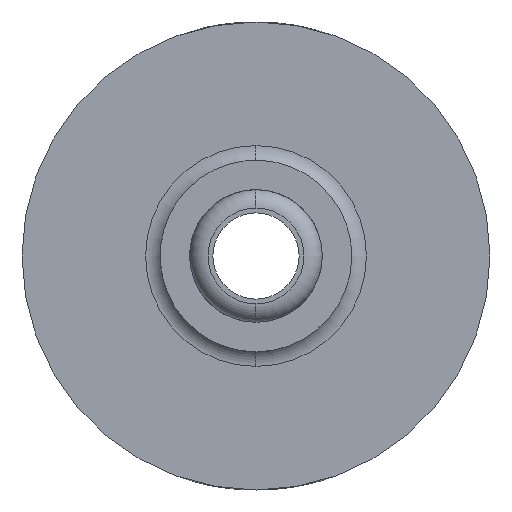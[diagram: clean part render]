
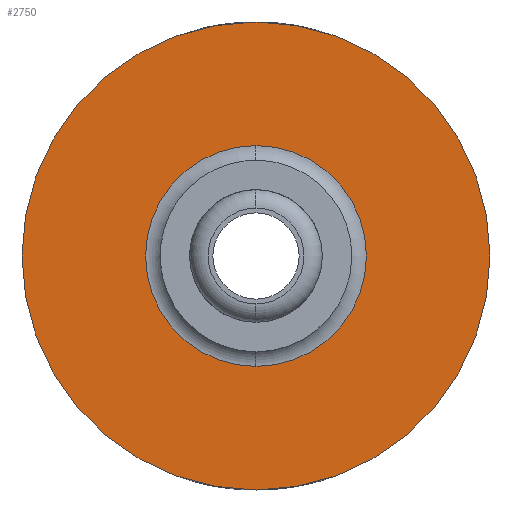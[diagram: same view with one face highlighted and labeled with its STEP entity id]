
A CAD part, left-side view. The second image highlights one B-rep face of the part: STEP entity #2750.
In plain terms, the highlighted planar face has unit normal (-1, 0, 0).
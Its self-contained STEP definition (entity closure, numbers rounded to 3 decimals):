
#55=FACE_BOUND('',#843,.T.);
#64=PLANE('',#3040);
#689=FACE_OUTER_BOUND('',#842,.T.);
#842=EDGE_LOOP('',(#2116,#2117));
#843=EDGE_LOOP('',(#2118,#2119));
#977=CIRCLE('',#2898,1.498);
#1028=CIRCLE('',#2970,3.175);
#1063=CIRCLE('',#3006,3.175);
#1087=CIRCLE('',#3041,1.498);
#1120=VERTEX_POINT('',#3903);
#1121=VERTEX_POINT('',#3904);
#1221=VERTEX_POINT('',#4343);
#1222=VERTEX_POINT('',#4345);
#1412=EDGE_CURVE('',#1120,#1121,#977,.T.);
#1518=EDGE_CURVE('',#1222,#1221,#1028,.T.);
#1590=EDGE_CURVE('',#1221,#1222,#1063,.T.);
#1647=EDGE_CURVE('',#1121,#1120,#1087,.T.);
#2116=ORIENTED_EDGE('',*,*,#1518,.T.);
#2117=ORIENTED_EDGE('',*,*,#1590,.T.);
#2118=ORIENTED_EDGE('',*,*,#1647,.T.);
#2119=ORIENTED_EDGE('',*,*,#1412,.T.);
#2750=ADVANCED_FACE('',(#689,#55),#64,.F.);
#2898=AXIS2_PLACEMENT_3D('',#3905,#3167,#3168);
#2970=AXIS2_PLACEMENT_3D('',#4346,#3344,#3345);
#3006=AXIS2_PLACEMENT_3D('',#4581,#3447,#3448);
#3040=AXIS2_PLACEMENT_3D('',#5028,#3528,#3529);
#3041=AXIS2_PLACEMENT_3D('',#5029,#3530,#3531);
#3167=DIRECTION('center_axis',(1.,0.,0.));
#3168=DIRECTION('ref_axis',(0.,0.,
1.));
#3344=DIRECTION('center_axis',(-1.,0.,0.));
#3345=DIRECTION('ref_axis',(0.,0.,1.));
#3447=DIRECTION('center_axis',(-1.,0.,0.));
#3448=DIRECTION('ref_axis',(0.,0.,
-1.));
#3528=DIRECTION('center_axis',(1.,0.,0.));
#3529=DIRECTION('ref_axis',(0.,0.,-1.));
#3530=DIRECTION('center_axis',(1.,0.,0.));
#3531=DIRECTION('ref_axis',(0.,0.,-1.));
#3903=CARTESIAN_POINT('',(-6.125,0.,1.498));
#3904=CARTESIAN_POINT('',(-6.125,0.,-1.498));
#3905=CARTESIAN_POINT('Origin',(-6.125,0.,0.));
#4343=CARTESIAN_POINT('',(-6.125,0.,-3.175));
#4345=CARTESIAN_POINT('',(-6.125,0.,3.175));
#4346=CARTESIAN_POINT('Origin',(-6.125,0.,0.));
#4581=CARTESIAN_POINT('Origin',(-6.125,0.,0.));
#5028=CARTESIAN_POINT('Origin',(-6.125,-3.213,0.));
#5029=CARTESIAN_POINT('Origin',(-6.125,0.,0.));
